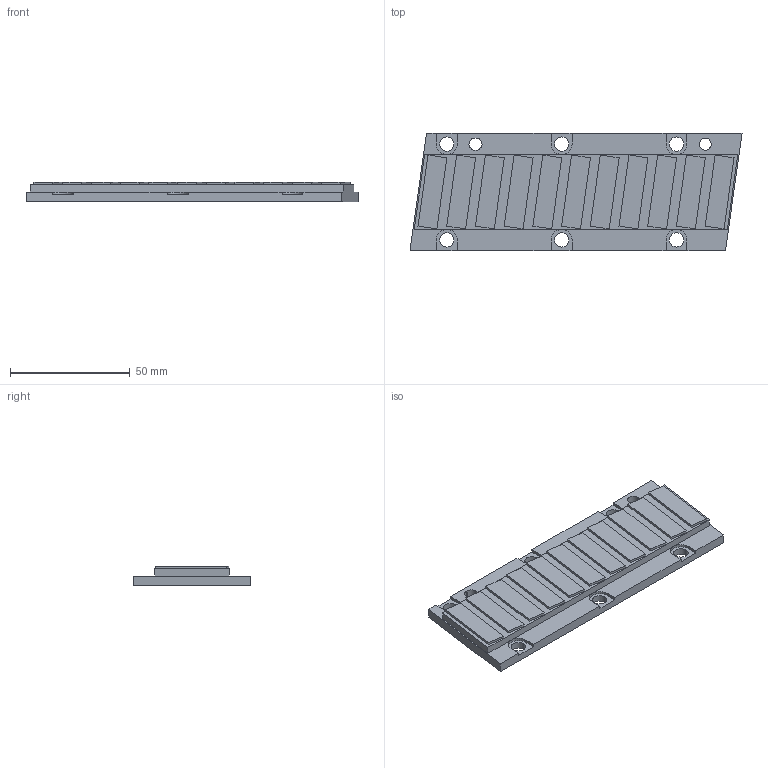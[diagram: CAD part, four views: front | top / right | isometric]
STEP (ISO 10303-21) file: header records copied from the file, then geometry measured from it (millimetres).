
FILE_DESCRIPTION (( 'STEP AP203' ), '1' );
FILE_NAME ('MP50-120.STEP', '2022-02-22T01:45:07', ( '' ), ( '' ), 'SwSTEP 2.0', 'SolidWorks 2021', '' );
FILE_SCHEMA (( 'CONFIG_CONTROL_DESIGN' ));
Length unit declared in the file: millimetre
Products named in the file (1): MP50-120
Bounding box: 138.74 x 49 x 8 mm (x, y, z)
Volume: 39588 mm3; surface area: 16306.6 mm2
Topology: 1 solids, 1 shells, 109 faces, 285 edges, 190 vertices
Faces by surface type: plane 86, cylinder 23
Entity records: 3434 total; most frequent: CARTESIAN_POINT 585, ORIENTED_EDGE 570, DIRECTION 551, EDGE_CURVE 285, LINE 239, VECTOR 239, VERTEX_POINT 190, AXIS2_PLACEMENT_3D 156
